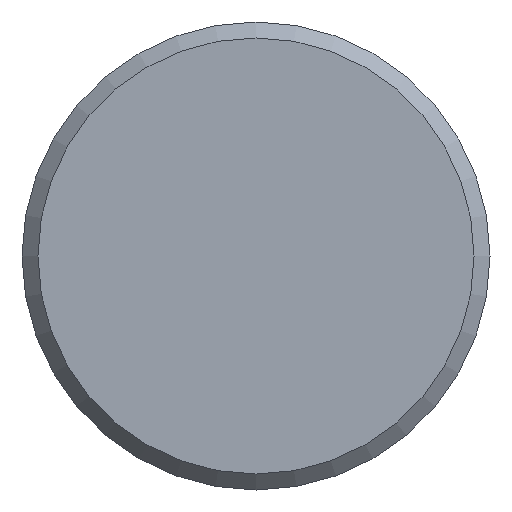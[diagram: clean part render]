
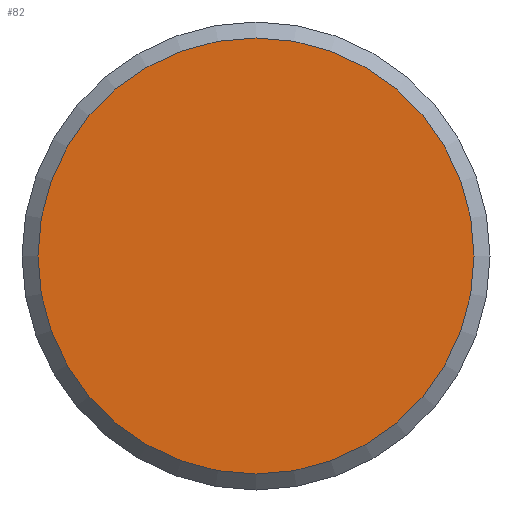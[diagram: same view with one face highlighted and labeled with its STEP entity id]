
A CAD part, front view. The second image highlights one B-rep face of the part: STEP entity #82.
In plain terms, the highlighted planar face has unit normal (0, -1, 0).
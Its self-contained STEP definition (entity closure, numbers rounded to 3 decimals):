
#82 = ADVANCED_FACE( '', ( #113 ), #114, .F. );
#113 = FACE_OUTER_BOUND( '', #157, .T. );
#114 = PLANE( '', #158 );
#157 = EDGE_LOOP( '', ( #226 ) );
#158 = AXIS2_PLACEMENT_3D( '', #227, #228, #229 );
#226 = ORIENTED_EDGE( '', *, *, #329, .T. );
#227 = CARTESIAN_POINT( '', ( 12.58, 0., 0. ) );
#228 = DIRECTION( '', ( 0., 1., 0. ) );
#229 = DIRECTION( '', ( 0., 0., 1. ) );
#329 = EDGE_CURVE( '', #381, #381, #382, .T. );
#381 = VERTEX_POINT( '', #451 );
#382 = CIRCLE( '', #452, 12.58 );
#451 = CARTESIAN_POINT( '', ( 0., 0., -12.58 ) );
#452 = AXIS2_PLACEMENT_3D( '', #517, #518, #519 );
#517 = CARTESIAN_POINT( '', ( 0., 0., 0. ) );
#518 = DIRECTION( '', ( 0., -1., 0. ) );
#519 = DIRECTION( '', ( 0., 0., -1. ) );
